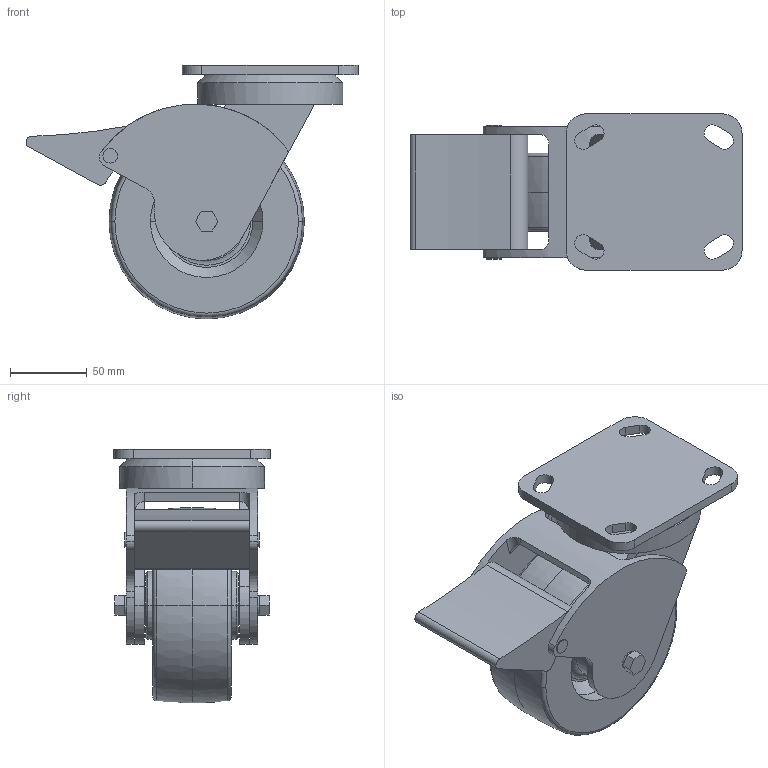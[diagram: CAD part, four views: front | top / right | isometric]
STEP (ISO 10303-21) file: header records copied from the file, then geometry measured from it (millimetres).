
FILE_DESCRIPTION (( 'STEP AP214' ), '1' );
FILE_NAME ('6.5in_800lbs_Polyurethane Swivel and Brake Caster.STEP', '2025-06-10T17:19:40', ( '' ), ( '' ), 'SwSTEP 2.0', 'SolidWorks 2023', '' );
FILE_SCHEMA (( 'AUTOMOTIVE_DESIGN' ));
Length unit declared in the file: inch
Products named in the file (1): 6.5in_800lbs_Polyurethane Swivel and Brake Caster
Bounding box: 215.9 x 101.6 x 165.1 mm (x, y, z)
Volume: 1032931.2 mm3; surface area: 190684.9 mm2
Topology: 7 solids, 7 shells, 173 faces, 415 edges, 266 vertices
Faces by surface type: cylinder 82, plane 67, torus 14, cone 10
Entity records: 5384 total; most frequent: CARTESIAN_POINT 1039, DIRECTION 957, ORIENTED_EDGE 830, EDGE_CURVE 415, AXIS2_PLACEMENT_3D 376, VERTEX_POINT 266, EDGE_LOOP 207, LINE 205
